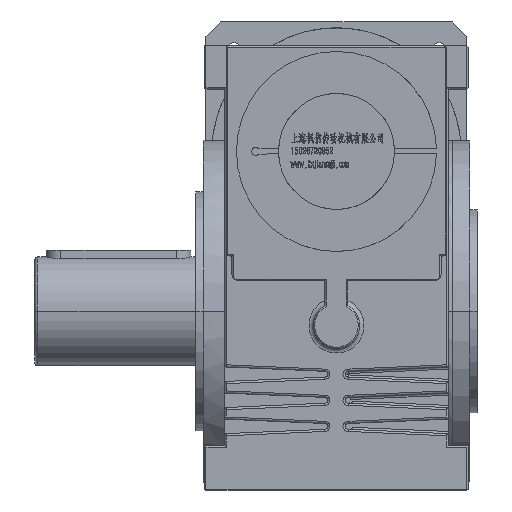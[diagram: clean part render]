
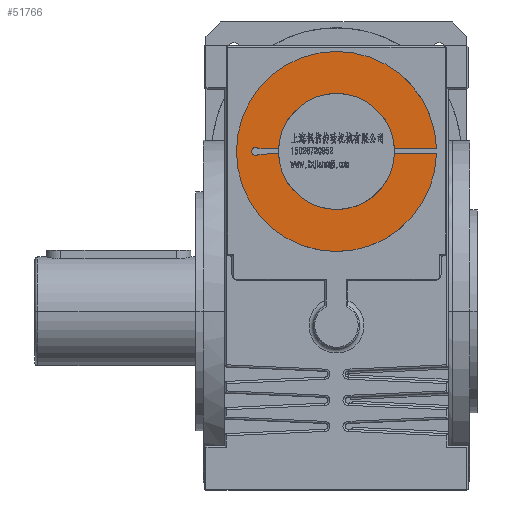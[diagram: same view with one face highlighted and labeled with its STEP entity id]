
A CAD part, top view. The second image highlights one B-rep face of the part: STEP entity #51766.
In plain terms, the highlighted planar face has unit normal (0, 0, 1).
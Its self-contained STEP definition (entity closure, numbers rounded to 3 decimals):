
#1561 = LINE ( 'NONE', #18575, #47974 ) ;
#1768 = EDGE_CURVE ( 'NONE', #65751, #45496, #124147, .T. ) ;
#4621 = EDGE_LOOP ( 'NONE', ( #83103, #32662, #16652, #31960, #19916, #53085, #36064, #55927, #53832, #37096 ) ) ;
#7010 = DIRECTION ( 'NONE',  ( 0., 0., -1. ) ) ;
#7838 = AXIS2_PLACEMENT_3D ( 'NONE', #105658, #83667, #47146 ) ;
#9635 = VECTOR ( 'NONE', #20560, 1000. ) ;
#9797 = DIRECTION ( 'NONE',  ( 0., 0., 1. ) ) ;
#12099 = CARTESIAN_POINT ( 'NONE',  ( -55.723, 110., 151.75 ) ) ;
#12399 = VERTEX_POINT ( 'NONE', #97224 ) ;
#16652 = ORIENTED_EDGE ( 'NONE', *, *, #124532, .T. ) ;
#18201 = DIRECTION ( 'NONE',  ( 1., 0., 0. ) ) ;
#18575 = CARTESIAN_POINT ( 'NONE',  ( -53.455, 108.238, 151.75 ) ) ;
#19916 = ORIENTED_EDGE ( 'NONE', *, *, #41284, .T. ) ;
#20560 = DIRECTION ( 'NONE',  ( -1., -0.004, 0. ) ) ;
#20772 = CIRCLE ( 'NONE', #36846, 69. ) ;
#21035 = EDGE_CURVE ( 'NONE', #32865, #45520, #40436, .T. ) ;
#21239 = DIRECTION ( 'NONE',  ( 0., 0., 1. ) ) ;
#23846 = CARTESIAN_POINT ( 'NONE',  ( -69., 110., 151.75 ) ) ;
#26504 = DIRECTION ( 'NONE',  ( 1., 0., 0. ) ) ;
#29942 = VECTOR ( 'NONE', #18201, 1000. ) ;
#31343 = EDGE_CURVE ( 'NONE', #70688, #12399, #104434, .T. ) ;
#31960 = ORIENTED_EDGE ( 'NONE', *, *, #21035, .T. ) ;
#32662 = ORIENTED_EDGE ( 'NONE', *, *, #111515, .T. ) ;
#32865 = VERTEX_POINT ( 'NONE', #112969 ) ;
#33637 = DIRECTION ( 'NONE',  ( 0., 0., -1. ) ) ;
#34911 = DIRECTION ( 'NONE',  ( 1., 0., 0. ) ) ;
#36064 = ORIENTED_EDGE ( 'NONE', *, *, #45812, .T. ) ;
#36846 = AXIS2_PLACEMENT_3D ( 'NONE', #108671, #21239, #77262 ) ;
#37096 = ORIENTED_EDGE ( 'NONE', *, *, #97289, .T. ) ;
#38114 = VERTEX_POINT ( 'NONE', #23846 ) ;
#38207 = LINE ( 'NONE', #87277, #9635 ) ;
#39108 = CARTESIAN_POINT ( 'NONE',  ( 39.985, 111.762, 151.75 ) ) ;
#40436 = CIRCLE ( 'NONE', #56478, 2.872 ) ;
#41053 = DIRECTION ( 'NONE',  ( 1., 0., 0. ) ) ;
#41284 = EDGE_CURVE ( 'NONE', #45520, #65751, #62193, .T. ) ;
#42449 = EDGE_CURVE ( 'NONE', #66236, #38114, #20772, .T. ) ;
#45496 = VERTEX_POINT ( 'NONE', #39108 ) ;
#45520 = VERTEX_POINT ( 'NONE', #108866 ) ;
#45701 = EDGE_CURVE ( 'NONE', #38114, #80903, #96245, .T. ) ;
#45812 = EDGE_CURVE ( 'NONE', #45496, #66236, #113829, .T. ) ;
#46947 = PLANE ( 'NONE',  #59944 ) ;
#47146 = DIRECTION ( 'NONE',  ( 1., 0., 0. ) ) ;
#47639 = DIRECTION ( 'NONE',  ( 1., 0., 0. ) ) ;
#47974 = VECTOR ( 'NONE', #56339, 1000. ) ;
#51766 = ADVANCED_FACE ( 'NONE', ( #66436 ), #46947, .T. ) ;
#53085 = ORIENTED_EDGE ( 'NONE', *, *, #1768, .T. ) ;
#53832 = ORIENTED_EDGE ( 'NONE', *, *, #45701, .T. ) ;
#53923 = CARTESIAN_POINT ( 'NONE',  ( 39.999, 108.585, 151.75 ) ) ;
#55927 = ORIENTED_EDGE ( 'NONE', *, *, #42449, .T. ) ;
#56339 = DIRECTION ( 'NONE',  ( -1., -0.004, 0. ) ) ;
#56478 = AXIS2_PLACEMENT_3D ( 'NONE', #12099, #88862, #41053 ) ;
#57072 = DIRECTION ( 'NONE',  ( 0., 0., -1. ) ) ;
#59944 = AXIS2_PLACEMENT_3D ( 'NONE', #104202, #9797, #94760 ) ;
#60963 = CARTESIAN_POINT ( 'NONE',  ( -53.455, 111.762, 151.75 ) ) ;
#62193 = LINE ( 'NONE', #60963, #70767 ) ;
#63204 = CARTESIAN_POINT ( 'NONE',  ( 0., 110., 151.75 ) ) ;
#65751 = VERTEX_POINT ( 'NONE', #115073 ) ;
#66001 = CARTESIAN_POINT ( 'NONE',  ( 39.985, 111.762, 151.75 ) ) ;
#66236 = VERTEX_POINT ( 'NONE', #88632 ) ;
#66436 = FACE_OUTER_BOUND ( 'NONE', #4621, .T. ) ;
#70688 = VERTEX_POINT ( 'NONE', #53923 ) ;
#70767 = VECTOR ( 'NONE', #101847, 1000. ) ;
#75323 = CARTESIAN_POINT ( 'NONE',  ( 0., 110., 151.75 ) ) ;
#75891 = AXIS2_PLACEMENT_3D ( 'NONE', #63204, #33637, #34911 ) ;
#77262 = DIRECTION ( 'NONE',  ( 1., 0., 0. ) ) ;
#80903 = VERTEX_POINT ( 'NONE', #105949 ) ;
#83103 = ORIENTED_EDGE ( 'NONE', *, *, #31343, .T. ) ;
#83667 = DIRECTION ( 'NONE',  ( 0., 0., 1. ) ) ;
#87277 = CARTESIAN_POINT ( 'NONE',  ( 39.999, 108.585, 151.75 ) ) ;
#88632 = CARTESIAN_POINT ( 'NONE',  ( 68.977, 111.762, 151.75 ) ) ;
#88862 = DIRECTION ( 'NONE',  ( 0., 0., -1. ) ) ;
#93403 = CIRCLE ( 'NONE', #105472, 2.872 ) ;
#94760 = DIRECTION ( 'NONE',  ( 1., 0., 0. ) ) ;
#96245 = CIRCLE ( 'NONE', #7838, 69. ) ;
#97224 = CARTESIAN_POINT ( 'NONE',  ( -39.988, 108.288, 151.75 ) ) ;
#97289 = EDGE_CURVE ( 'NONE', #80903, #70688, #38207, .T. ) ;
#101847 = DIRECTION ( 'NONE',  ( 1., 0., 0. ) ) ;
#104202 = CARTESIAN_POINT ( 'NONE',  ( 0., 110., 151.75 ) ) ;
#104434 = CIRCLE ( 'NONE', #106510, 40.024 ) ;
#105472 = AXIS2_PLACEMENT_3D ( 'NONE', #111475, #7010, #26504 ) ;
#105658 = CARTESIAN_POINT ( 'NONE',  ( 0., 110., 151.75 ) ) ;
#105949 = CARTESIAN_POINT ( 'NONE',  ( 68.988, 108.693, 151.75 ) ) ;
#106510 = AXIS2_PLACEMENT_3D ( 'NONE', #75323, #57072, #47639 ) ;
#108671 = CARTESIAN_POINT ( 'NONE',  ( 0., 110., 151.75 ) ) ;
#108866 = CARTESIAN_POINT ( 'NONE',  ( -53.455, 111.762, 151.75 ) ) ;
#111134 = CARTESIAN_POINT ( 'NONE',  ( -53.455, 108.238, 151.75 ) ) ;
#111475 = CARTESIAN_POINT ( 'NONE',  ( -55.723, 110., 151.75 ) ) ;
#111515 = EDGE_CURVE ( 'NONE', #12399, #122906, #1561, .T. ) ;
#112969 = CARTESIAN_POINT ( 'NONE',  ( -58.595, 110., 151.75 ) ) ;
#113829 = LINE ( 'NONE', #66001, #29942 ) ;
#115073 = CARTESIAN_POINT ( 'NONE',  ( -39.985, 111.762, 151.75 ) ) ;
#122906 = VERTEX_POINT ( 'NONE', #111134 ) ;
#124147 = CIRCLE ( 'NONE', #75891, 40.024 ) ;
#124532 = EDGE_CURVE ( 'NONE', #122906, #32865, #93403, .T. ) ;
